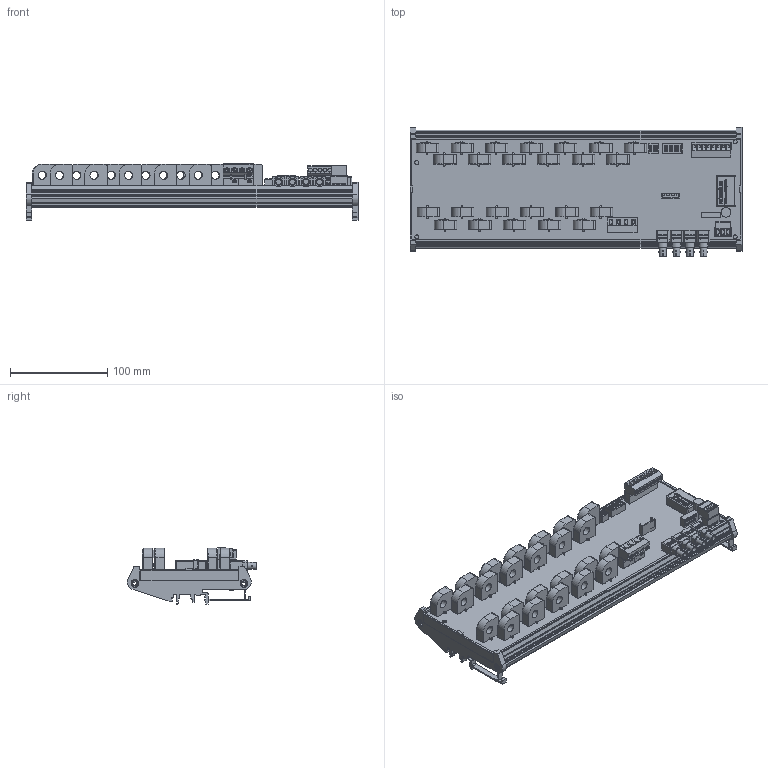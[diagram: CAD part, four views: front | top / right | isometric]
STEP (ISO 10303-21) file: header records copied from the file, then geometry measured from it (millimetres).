
FILE_DESCRIPTION(('FreeCAD Model'),'2;1');
FILE_NAME('C:/3D Files/Stringhe/ST0HS/ST0HS24xx DR/ST0HS24xx DR.step', '2023-01-13T09:22:46',('Author'),(''), 'Open CASCADE STEP processor 7.3','FreeCAD','Unknown');
FILE_SCHEMA(('AUTOMOTIVE_DESIGN { 1 0 10303 214 1 1 1 1 }'));
Length unit declared in the file: millimetre
Products named in the file (44): ST0HS24xx_DR; AmpModu_6P_M; DipSwitch8; DipSwitch4; IB2405LS-1W; WRB2403ZP-6WR003; ELNA_470_uF_35_V; Mstb_03P_F; Mstb_03Pc_M; SH04-7,62; PV02-7,62-V-Pa; PV02-7,62-V-Pb; Mstb_8P_F; Mstb_8Pc_M; CHK-LSP5S2L-BP-CH_01; CHK-LSP5S2L-BP-CH_02; CHK-LSP5S2L-BP-CH_03; CHK-LSP5S2L-BP-CH_04; CHK-LSP5S2L-BP-CH_05; CHK-LSP5S2L-BP-CH_06; CHK-LSP5S2L-BP-CH_07; CHK-LSP5S2L-BP-CH_08; CHK-LSP5S2L-BP-CH_09; CHK-LSP5S2L-BP-CH_10; CHK-LSP5S2L-BP-CH_11; CHK-LSP5S2L-BP-CH_12; CHK-LSP5S2L-BP-CH_13; CHK-LSP5S2L-BP-CH_14; CHK-LSP5S2L-BP-CH_15; CHK-LSP5S2L-BP-CH_16; CHK-LSP5S2L-BP-CH_17; CHK-LSP5S2L-BP-CH_18; CHK-LSP5S2L-BP-CH_19; CHK-LSP5S2L-BP-CH_20; Stampato_338_x_108; Profilo_342x128; CHK-LSP5S2L-BP-CH_21; CHK-LSP5S2L-BP-CH_22; CHK-LSP5S2L-BP-CH_23; CHK-LSP5S2L-BP-CH_24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
Assembly tree (43 placements, depth 2):
  ST0HS24xx_DR
    AmpModu_6P_M
    DipSwitch8
    DipSwitch4
    IB2405LS-1W
    WRB2403ZP-6WR003
    ELNA_470_uF_35_V
    Mstb_03P_F
    Mstb_03Pc_M
    SH04-7,62
    PV02-7,62-V-Pa
    PV02-7,62-V-Pb
    Mstb_8P_F
    Mstb_8Pc_M
    CHK-LSP5S2L-BP-CH_01
    CHK-LSP5S2L-BP-CH_02
    CHK-LSP5S2L-BP-CH_03
    CHK-LSP5S2L-BP-CH_04
    CHK-LSP5S2L-BP-CH_05
    CHK-LSP5S2L-BP-CH_06
    CHK-LSP5S2L-BP-CH_07
    CHK-LSP5S2L-BP-CH_08
    CHK-LSP5S2L-BP-CH_09
    CHK-LSP5S2L-BP-CH_10
    CHK-LSP5S2L-BP-CH_11
    CHK-LSP5S2L-BP-CH_12
    CHK-LSP5S2L-BP-CH_13
    CHK-LSP5S2L-BP-CH_14
    CHK-LSP5S2L-BP-CH_15
    CHK-LSP5S2L-BP-CH_16
    CHK-LSP5S2L-BP-CH_17
    CHK-LSP5S2L-BP-CH_18
    CHK-LSP5S2L-BP-CH_19
    CHK-LSP5S2L-BP-CH_20
    Stampato_338_x_108
    Profilo_342x128
    CHK-LSP5S2L-BP-CH_21
    CHK-LSP5S2L-BP-CH_22
    CHK-LSP5S2L-BP-CH_23
    CHK-LSP5S2L-BP-CH_24
    HFBR-x41xTZ001
    HFBR-x41xTZ002
    HFBR-x41xTZ003
    HFBR-x41xTZ004
Bounding box: 342 x 133.07 x 57.69 mm (x, y, z)
Volume: 323564.1 mm3; surface area: 328173.9 mm2
Topology: 105 solids, 224 shells, 7094 faces, 26221 edges, 38166 vertices
Faces by surface type: plane 5418, cylinder 1248, torus 208, bspline 160, cone 41, sphere 16, extrusion 3
Full cylindrical faces by diameter (mm): 0.5 x36, 0.75 x36, 1 x18, 1.5 x8, 1.6 x7, 3.8 x4, 4 x19, 4.3 x4, 5.6 x4, 7.1 x4, 7.9 x4, 9.202 x4, 10 x1
Entity records: 580284 total; most frequent: CARTESIAN_POINT 146432, DIRECTION 76348, VECTOR 53022, LINE 53019, ORIENTED_EDGE 38235, PCURVE 38235, DEFINITIONAL_REPRESENTATION 38235, EDGE_CURVE 20004
